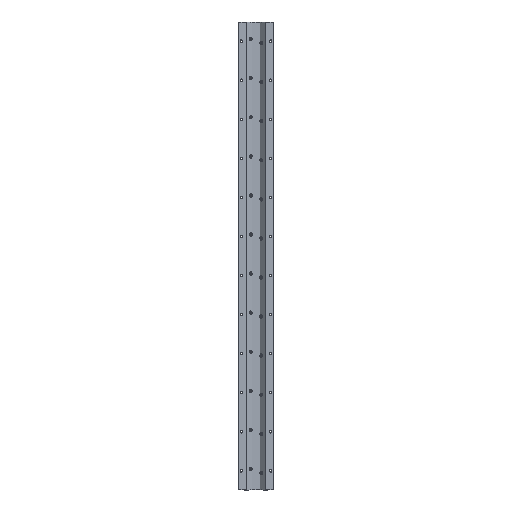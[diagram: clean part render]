
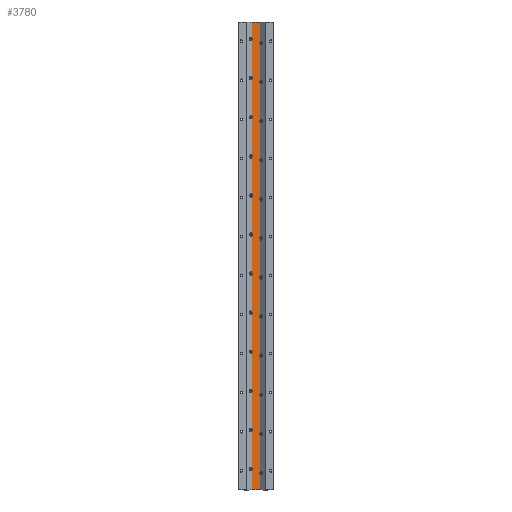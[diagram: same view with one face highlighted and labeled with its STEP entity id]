
A CAD part, front view. The second image highlights one B-rep face of the part: STEP entity #3780.
In plain terms, the highlighted planar face has unit normal (0, -1, 0).
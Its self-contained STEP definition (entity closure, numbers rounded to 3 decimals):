
#67 = EDGE_CURVE ( 'NONE', #71, #81, #5594, .T. ) ;
#71 = VERTEX_POINT ( 'NONE', #5648 ) ;
#81 = VERTEX_POINT ( 'NONE', #5632 ) ;
#1544 = EDGE_CURVE ( 'NONE', #71, #2285, #8559, .T. ) ;
#1594 = EDGE_CURVE ( 'NONE', #81, #4012, #8606, .T. ) ;
#1611 = ORIENTED_EDGE ( 'NONE', *, *, #1544, .T. ) ;
#1613 = ORIENTED_EDGE ( 'NONE', *, *, #2354, .T. ) ;
#2285 = VERTEX_POINT ( 'NONE', #9716 ) ;
#2354 = EDGE_CURVE ( 'NONE', #2285, #4012, #9849, .T. ) ;
#3776 = EDGE_LOOP ( 'NONE', ( #3781, #3782, #1611, #1613 ) ) ;
#3780 = ADVANCED_FACE ( 'NONE', ( #12462 ), #12461, .T. ) ;
#3781 = ORIENTED_EDGE ( 'NONE', *, *, #1594, .F. ) ;
#3782 = ORIENTED_EDGE ( 'NONE', *, *, #67, .F. ) ;
#4012 = VERTEX_POINT ( 'NONE', #12761 ) ;
#5591 = DIRECTION ( 'NONE',  ( 0., 0., 1. ) ) ;
#5592 = VECTOR ( 'NONE', #5591, 1000. ) ;
#5593 = CARTESIAN_POINT ( 'NONE',  ( -11.015, 19., -1196. ) ) ;
#5594 = LINE ( 'NONE', #5593, #5592 ) ;
#5632 = CARTESIAN_POINT ( 'NONE',  ( -11.015, 19., 0. ) ) ;
#5648 = CARTESIAN_POINT ( 'NONE',  ( -11.015, 19., -1196. ) ) ;
#8556 = DIRECTION ( 'NONE',  ( 1., 0., 0. ) ) ;
#8557 = VECTOR ( 'NONE', #8556, 1000. ) ;
#8558 = CARTESIAN_POINT ( 'NONE',  ( -11.015, 19., -1196. ) ) ;
#8559 = LINE ( 'NONE', #8558, #8557 ) ;
#8603 = DIRECTION ( 'NONE',  ( 1., 0., 0. ) ) ;
#8604 = VECTOR ( 'NONE', #8603, 1000. ) ;
#8605 = CARTESIAN_POINT ( 'NONE',  ( -11.015, 19., 0. ) ) ;
#8606 = LINE ( 'NONE', #8605, #8604 ) ;
#9716 = CARTESIAN_POINT ( 'NONE',  ( 11.015, 19., -1196. ) ) ;
#9846 = DIRECTION ( 'NONE',  ( 0., 0., 1. ) ) ;
#9847 = VECTOR ( 'NONE', #9846, 1000. ) ;
#9848 = CARTESIAN_POINT ( 'NONE',  ( 11.015, 19., -1196. ) ) ;
#9849 = LINE ( 'NONE', #9848, #9847 ) ;
#12457 = DIRECTION ( 'NONE',  ( 0., 0., -1. ) ) ;
#12458 = DIRECTION ( 'NONE',  ( 0., -1., 0. ) ) ;
#12459 = CARTESIAN_POINT ( 'NONE',  ( -11.015, 19., -1196. ) ) ;
#12460 = AXIS2_PLACEMENT_3D ( 'NONE', #12459, #12458, #12457 ) ;
#12461 = PLANE ( 'NONE',  #12460 ) ;
#12462 = FACE_OUTER_BOUND ( 'NONE', #3776, .T. ) ;
#12761 = CARTESIAN_POINT ( 'NONE',  ( 11.015, 19., 0. ) ) ;
